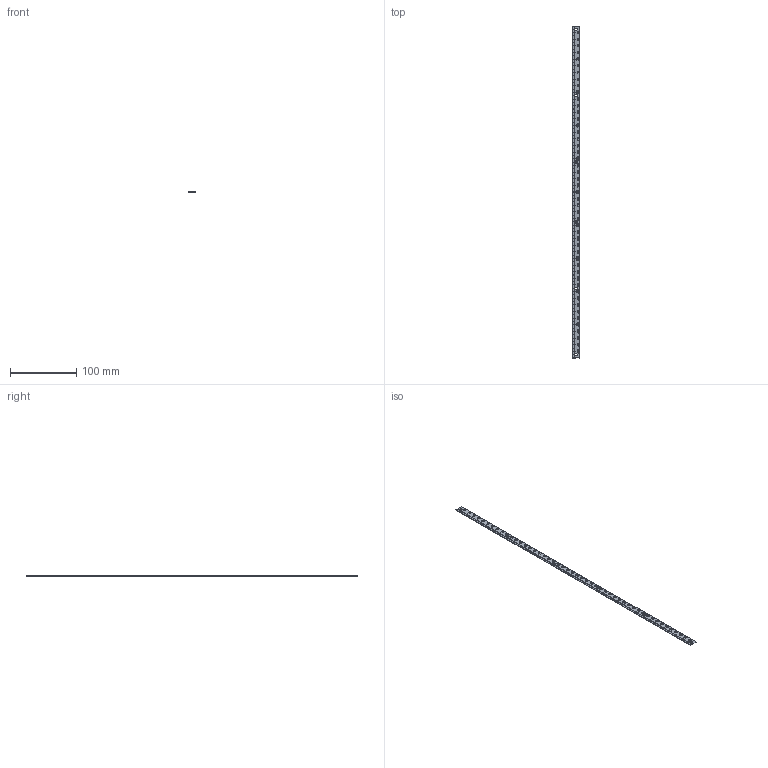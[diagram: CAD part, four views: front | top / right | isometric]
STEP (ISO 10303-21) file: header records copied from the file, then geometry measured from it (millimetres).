
FILE_DESCRIPTION (( 'STEP AP203' ), '1' );
FILE_NAME ('es2n-u500l.STEP', '2023-06-15T06:53:12', ( '' ), ( '' ), 'SwSTEP 2.0', 'SolidWorks 2021', '' );
FILE_SCHEMA (( 'CONFIG_CONTROL_DESIGN' ));
Products named in the file (1): es2n-u500l
Bounding box: 12 x 500 x 0.5 mm (x, y, z)
Volume: 2966.7 mm3; surface area: 12481 mm2
Topology: 1 solids, 1 shells, 4623 faces, 13185 edges, 8790 vertices
Faces by surface type: plane 2748, bspline 1863, cylinder 12
Entity records: 217682 total; most frequent: CARTESIAN_POINT 109878, ORIENTED_EDGE 26370, DIRECTION 15005, EDGE_CURVE 13185, VECTOR 9435, LINE 9435, VERTEX_POINT 8790, EDGE_LOOP 4861
